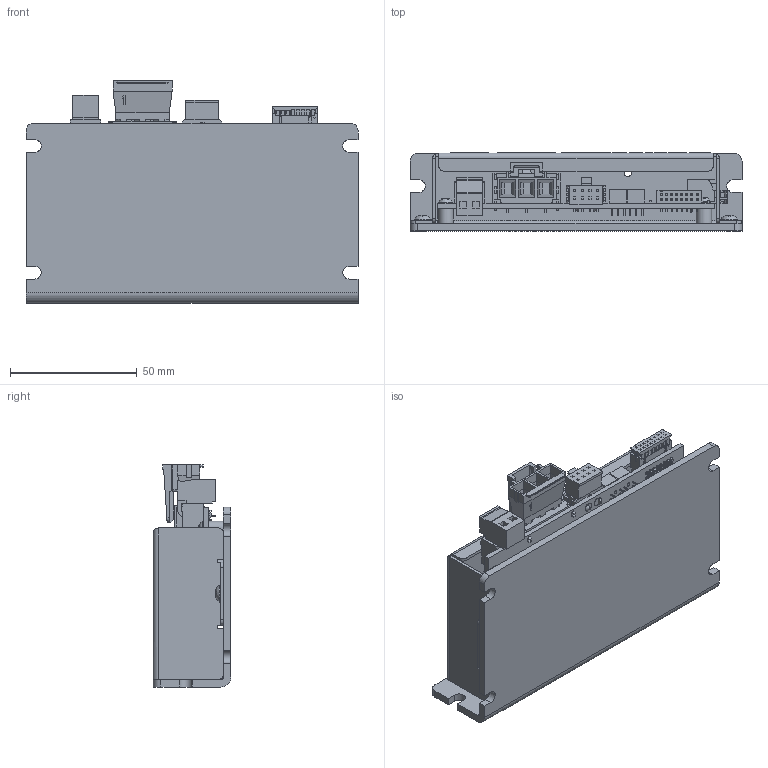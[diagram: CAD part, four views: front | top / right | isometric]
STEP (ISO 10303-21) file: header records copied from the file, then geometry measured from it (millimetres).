
FILE_DESCRIPTION (( 'STEP AP203' ), '1' );
FILE_NAME ('3D-ELV-001.STEP', '2017-05-22T02:59:04', ( '' ), ( '' ), 'SwSTEP 2.0', 'SolidWorks 2016', '' );
FILE_SCHEMA (( 'CONFIG_CONTROL_DESIGN' ));
Products named in the file (1): 3D-ELV-001
Bounding box: 131 x 30.74 x 87.7 mm (x, y, z)
Volume: 77818 mm3; surface area: 80142.3 mm2
Topology: 7 solids, 43 shells, 4323 faces, 11978 edges, 7910 vertices
Faces by surface type: plane 3561, bspline 475, cylinder 280, torus 5, cone 2
Full cylindrical faces by diameter (mm): 0.4 x12, 0.7 x1, 0.8 x2, 1.016 x2, 1.2 x4, 1.303 x20, 1.422 x6, 1.593 x2, 1.727 x7, 2.563 x2, 3 x1, 3.2 x2, 3.203 x2, 3.5 x2, 3.694 x2, 3.807 x2, 6 x3
Entity records: 165974 total; most frequent: CARTESIAN_POINT 59291, ORIENTED_EDGE 23686, DIRECTION 18787, EDGE_CURVE 11843, LINE 10037, VECTOR 10037, VERTEX_POINT 7865, EDGE_LOOP 4844
